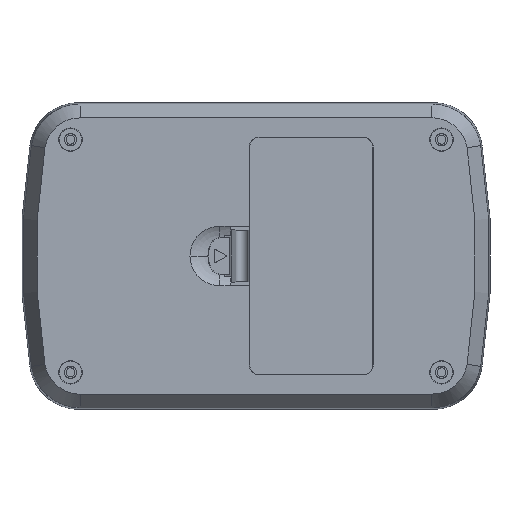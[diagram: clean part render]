
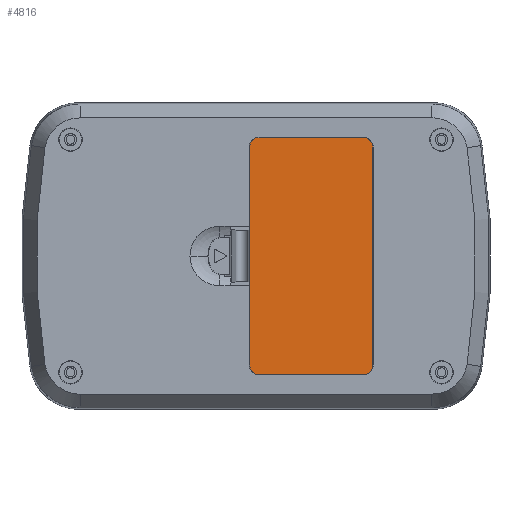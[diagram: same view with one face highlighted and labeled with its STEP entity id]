
A CAD part, front view. The second image highlights one B-rep face of the part: STEP entity #4816.
In plain terms, the highlighted planar face has unit normal (0, -1, 0) as drawn and (0, 1, 0) by its records, which use the part's own axes.
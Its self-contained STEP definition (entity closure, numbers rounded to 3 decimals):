
#96 = CARTESIAN_POINT ( 'NONE',  ( -23.958, 0., -10.459 ) ) ;
#156 = CARTESIAN_POINT ( 'NONE',  ( -21.959, 0., -12.458 ) ) ;
#509 = CARTESIAN_POINT ( 'NONE',  ( -21.959, 0., 12.458 ) ) ;
#693 = ORIENTED_EDGE ( 'NONE', *, *, #14257, .T. ) ;
#739 = DIRECTION ( 'NONE',  ( 0., 0., 1. ) ) ;
#780 = CARTESIAN_POINT ( 'NONE',  ( -23.958, 0., 10.459 ) ) ;
#811 = EDGE_CURVE ( 'NONE', #14193, #7240, #11012, .T. ) ;
#855 = AXIS2_PLACEMENT_3D ( 'NONE', #6431, #10253, #2594 ) ;
#1143 = VECTOR ( 'NONE', #12473, 1000. ) ;
#1253 = CARTESIAN_POINT ( 'NONE',  ( 24., 0., 12.458 ) ) ;
#1293 = PLANE ( 'NONE',  #855 ) ;
#1498 = CARTESIAN_POINT ( 'NONE',  ( -23.13, 0., -12.458 ) ) ;
#1625 = VECTOR ( 'NONE', #10974, 1000. ) ;
#1815 = EDGE_CURVE ( 'NONE', #2117, #10990, #15904, .T. ) ;
#2015 = CARTESIAN_POINT ( 'NONE',  ( 23.958, 0., 12.5 ) ) ;
#2117 = VERTEX_POINT ( 'NONE', #10970 ) ;
#2253 = CARTESIAN_POINT ( 'NONE',  ( 24., 0., -12.458 ) ) ;
#2594 = DIRECTION ( 'NONE',  ( 0., 0., 1. ) ) ;
#3314 = LINE ( 'NONE', #16016, #13067 ) ;
#3349 = EDGE_CURVE ( 'NONE', #7240, #12888, #11406, .T. ) ;
#4340 = CARTESIAN_POINT ( 'NONE',  ( 23.13, 0., -12.458 ) ) ;
#4361 = VECTOR ( 'NONE', #14021, 1000. ) ;
#4630 = CARTESIAN_POINT ( 'NONE',  ( -23.958, 0., 11.63 ) ) ;
#4652 = EDGE_LOOP ( 'NONE', ( #693, #8783, #7272, #12327, #10617, #9536, #7023, #5708 ) ) ;
#4745 = LINE ( 'NONE', #1253, #4361 ) ;
#4816 = ADVANCED_FACE ( 'NONE', ( #9243 ), #1293, .T. ) ;
#4995 = CARTESIAN_POINT ( 'NONE',  ( -23.958, 0., 10.459 ) ) ;
#5105 = CARTESIAN_POINT ( 'NONE',  ( -23.958, 0., -10.459 ) ) ;
#5708 = ORIENTED_EDGE ( 'NONE', *, *, #11698, .T. ) ;
#5986 = CARTESIAN_POINT ( 'NONE',  ( -23.13, 0., 12.458 ) ) ;
#6336 = EDGE_CURVE ( 'NONE', #7138, #2117, #11345, .T. ) ;
#6431 = CARTESIAN_POINT ( 'NONE',  ( 24., 0., 12.5 ) ) ;
#7023 = ORIENTED_EDGE ( 'NONE', *, *, #14673, .T. ) ;
#7138 = VERTEX_POINT ( 'NONE', #14962 ) ;
#7240 = VERTEX_POINT ( 'NONE', #15251 ) ;
#7272 = ORIENTED_EDGE ( 'NONE', *, *, #3349, .T. ) ;
#7576 = CARTESIAN_POINT ( 'NONE',  ( 23.958, 0., 10.459 ) ) ;
#7738 = CARTESIAN_POINT ( 'NONE',  ( -23.958, 0., -11.63 ) ) ;
#7805 = CARTESIAN_POINT ( 'NONE',  ( 23.958, 0., 11.63 ) ) ;
#8783 = ORIENTED_EDGE ( 'NONE', *, *, #811, .T. ) ;
#9216 = CARTESIAN_POINT ( 'NONE',  ( 23.958, 0., -10.459 ) ) ;
#9243 = FACE_OUTER_BOUND ( 'NONE', #4652, .T. ) ;
#9536 = ORIENTED_EDGE ( 'NONE', *, *, #1815, .T. ) ;
#9689 = VERTEX_POINT ( 'NONE', #4995 ) ;
#10253 = DIRECTION ( 'NONE',  ( 0., 1., 0. ) ) ;
#10617 = ORIENTED_EDGE ( 'NONE', *, *, #6336, .T. ) ;
#10674 = CARTESIAN_POINT ( 'NONE',  ( 23.958, 0., -11.63 ) ) ;
#10970 = CARTESIAN_POINT ( 'NONE',  ( -21.959, 0., -12.458 ) ) ;
#10974 = DIRECTION ( 'NONE',  ( 0., 0., -1. ) ) ;
#10990 = VERTEX_POINT ( 'NONE', #5105 ) ;
#11012 =( BOUNDED_CURVE ( )  B_SPLINE_CURVE ( 3, ( #15498, #15032, #7805, #7576 ),
 .UNSPECIFIED., .F., .F. ) 
 B_SPLINE_CURVE_WITH_KNOTS ( ( 4, 4 ),
 ( 2.357, 3.926 ),
 .UNSPECIFIED. ) 
 CURVE ( )  GEOMETRIC_REPRESENTATION_ITEM ( )  RATIONAL_B_SPLINE_CURVE ( ( 1., 0.805, 0.805, 1. ) ) 
 REPRESENTATION_ITEM ( '' )  );
#11345 = LINE ( 'NONE', #2253, #1143 ) ;
#11406 = LINE ( 'NONE', #2015, #1625 ) ;
#11698 = EDGE_CURVE ( 'NONE', #9689, #16175, #16053, .T. ) ;
#11954 = CARTESIAN_POINT ( 'NONE',  ( 23.958, 0., -10.459 ) ) ;
#12327 = ORIENTED_EDGE ( 'NONE', *, *, #13853, .T. ) ;
#12473 = DIRECTION ( 'NONE',  ( -1., 0., 0. ) ) ;
#12888 = VERTEX_POINT ( 'NONE', #9216 ) ;
#13067 = VECTOR ( 'NONE', #739, 1000. ) ;
#13189 = CARTESIAN_POINT ( 'NONE',  ( 21.959, 0., -12.458 ) ) ;
#13843 =( BOUNDED_CURVE ( )  B_SPLINE_CURVE ( 3, ( #11954, #10674, #4340, #13189 ),
 .UNSPECIFIED., .F., .F. ) 
 B_SPLINE_CURVE_WITH_KNOTS ( ( 4, 4 ),
 ( 2.357, 3.926 ),
 .UNSPECIFIED. ) 
 CURVE ( )  GEOMETRIC_REPRESENTATION_ITEM ( )  RATIONAL_B_SPLINE_CURVE ( ( 1., 0.805, 0.805, 1. ) ) 
 REPRESENTATION_ITEM ( '' )  );
#13853 = EDGE_CURVE ( 'NONE', #12888, #7138, #13843, .T. ) ;
#14021 = DIRECTION ( 'NONE',  ( 1., 0., 0. ) ) ;
#14193 = VERTEX_POINT ( 'NONE', #15198 ) ;
#14257 = EDGE_CURVE ( 'NONE', #16175, #14193, #4745, .T. ) ;
#14673 = EDGE_CURVE ( 'NONE', #10990, #9689, #3314, .T. ) ;
#14833 = CARTESIAN_POINT ( 'NONE',  ( -21.959, 0., 12.458 ) ) ;
#14962 = CARTESIAN_POINT ( 'NONE',  ( 21.959, 0., -12.458 ) ) ;
#15032 = CARTESIAN_POINT ( 'NONE',  ( 23.13, 0., 12.458 ) ) ;
#15198 = CARTESIAN_POINT ( 'NONE',  ( 21.959, 0., 12.458 ) ) ;
#15251 = CARTESIAN_POINT ( 'NONE',  ( 23.958, 0., 10.459 ) ) ;
#15498 = CARTESIAN_POINT ( 'NONE',  ( 21.959, 0., 12.458 ) ) ;
#15904 =( BOUNDED_CURVE ( )  B_SPLINE_CURVE ( 3, ( #156, #1498, #7738, #96 ),
 .UNSPECIFIED., .F., .F. ) 
 B_SPLINE_CURVE_WITH_KNOTS ( ( 4, 4 ),
 ( 2.357, 3.926 ),
 .UNSPECIFIED. ) 
 CURVE ( )  GEOMETRIC_REPRESENTATION_ITEM ( )  RATIONAL_B_SPLINE_CURVE ( ( 1., 0.805, 0.805, 1. ) ) 
 REPRESENTATION_ITEM ( '' )  );
#16016 = CARTESIAN_POINT ( 'NONE',  ( -23.958, 0., 12.5 ) ) ;
#16053 =( BOUNDED_CURVE ( )  B_SPLINE_CURVE ( 3, ( #780, #4630, #5986, #14833 ),
 .UNSPECIFIED., .F., .F. ) 
 B_SPLINE_CURVE_WITH_KNOTS ( ( 4, 4 ),
 ( 2.357, 3.926 ),
 .UNSPECIFIED. ) 
 CURVE ( )  GEOMETRIC_REPRESENTATION_ITEM ( )  RATIONAL_B_SPLINE_CURVE ( ( 1., 0.805, 0.805, 1. ) ) 
 REPRESENTATION_ITEM ( '' )  );
#16175 = VERTEX_POINT ( 'NONE', #509 ) ;
